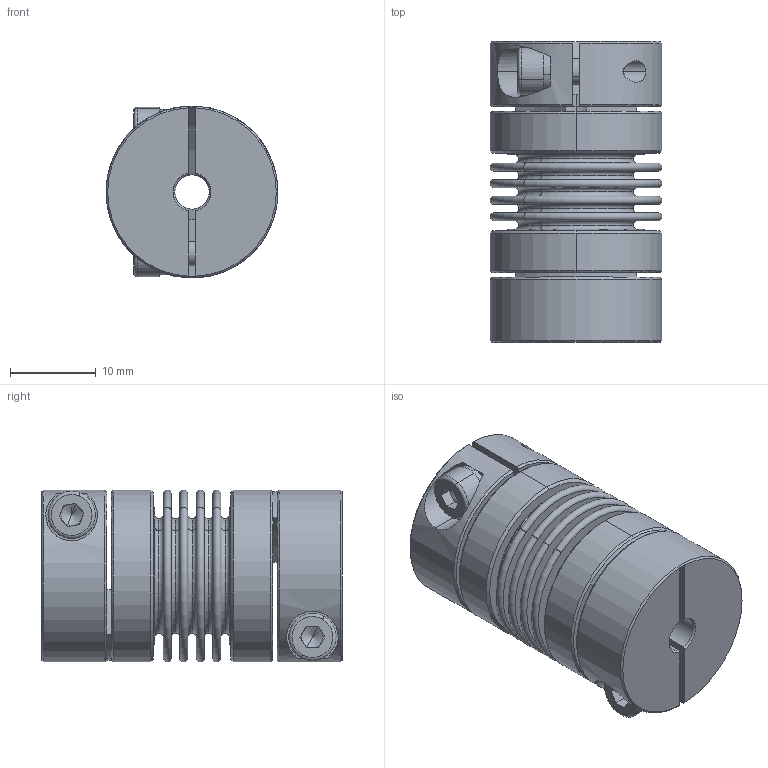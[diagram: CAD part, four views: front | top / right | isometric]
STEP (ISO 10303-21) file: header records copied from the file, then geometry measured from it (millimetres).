
FILE_DESCRIPTION (( 'STEP AP203' ), '1' );
FILE_NAME ('LB-B-D20L34-4-4.STEP', '2021-11-04T01:37:11', ( '' ), ( '' ), 'SwSTEP 2.0', 'SolidWorks 2018', '' );
FILE_SCHEMA (( 'CONFIG_CONTROL_DESIGN' ));
Length unit declared in the file: millimetre
Products named in the file (2): LB-B-D20L34-4-4; 零件4^LB-B-D20L34 波纹管联轴器-组装体
Assembly tree (1 placements, depth 2):
  LB-B-D20L34-4-4
    零件4^LB-B-D20L34 波纹管联轴器-组装体
Bounding box: 20 x 35 x 20 mm (x, y, z)
Volume: 6430.5 mm3; surface area: 9604.6 mm2
Topology: 1 solids, 1 shells, 246 faces, 578 edges, 358 vertices
Faces by surface type: plane 82, torus 68, cylinder 62, cone 34
Entity records: 7554 total; most frequent: CARTESIAN_POINT 1494, DIRECTION 1382, ORIENTED_EDGE 1148, AXIS2_PLACEMENT_3D 606, EDGE_CURVE 574, VERTEX_POINT 358, CIRCLE 356, EDGE_LOOP 288
